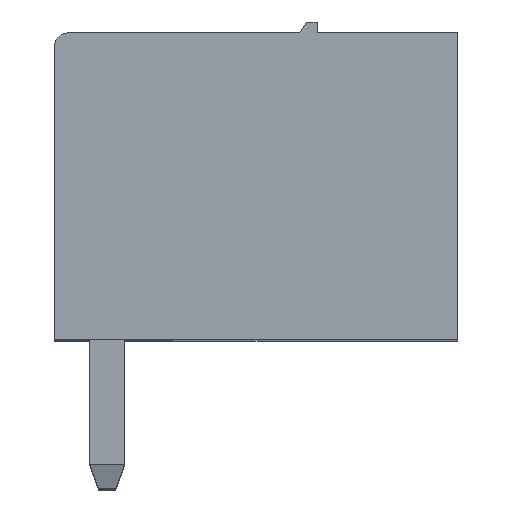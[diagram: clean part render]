
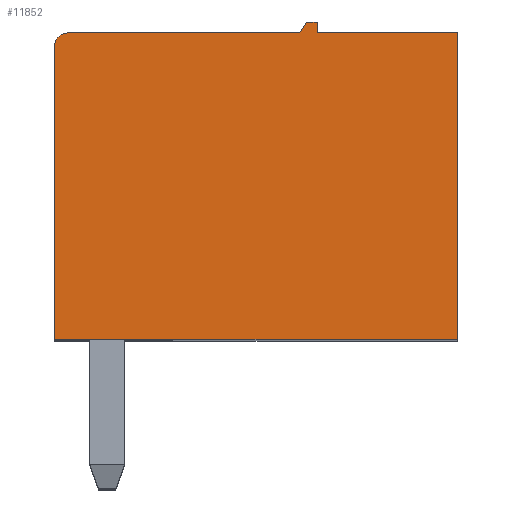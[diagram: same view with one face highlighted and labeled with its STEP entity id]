
A CAD part, top view. The second image highlights one B-rep face of the part: STEP entity #11852.
In plain terms, the highlighted planar face has unit normal (0, 0, 1).
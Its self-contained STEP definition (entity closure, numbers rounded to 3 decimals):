
#76 = CARTESIAN_POINT ( 'NONE',  ( 0., 0., 0. ) ) ;
#79 = DIRECTION ( 'NONE',  ( 0., -1., 0. ) ) ;
#188 = EDGE_CURVE ( 'NONE', #6863, #3545, #10891, .T. ) ;
#673 = DIRECTION ( 'NONE',  ( 0., 0., -1. ) ) ;
#822 = ORIENTED_EDGE ( 'NONE', *, *, #10134, .F. ) ;
#1363 = CARTESIAN_POINT ( 'NONE',  ( 0., 7., 0. ) ) ;
#1449 = AXIS2_PLACEMENT_3D ( 'NONE', #1363, #8263, #9400 ) ;
#1518 = CARTESIAN_POINT ( 'NONE',  ( -9.2, 6.7, 0. ) ) ;
#1536 = LINE ( 'NONE', #76, #6112 ) ;
#1727 = FACE_OUTER_BOUND ( 'NONE', #12166, .T. ) ;
#2052 = DIRECTION ( 'NONE',  ( 1., 0., 0. ) ) ;
#2100 = LINE ( 'NONE', #7382, #9494 ) ;
#2141 = VECTOR ( 'NONE', #4681, 1000. ) ;
#2308 = DIRECTION ( 'NONE',  ( 1., 0., 0. ) ) ;
#2316 = CARTESIAN_POINT ( 'NONE',  ( 0., 0., 0. ) ) ;
#2688 = ORIENTED_EDGE ( 'NONE', *, *, #188, .T. ) ;
#2756 = DIRECTION ( 'NONE',  ( 1., 0., 0. ) ) ;
#2774 = CARTESIAN_POINT ( 'NONE',  ( -8.9, 7., 0. ) ) ;
#3042 = VERTEX_POINT ( 'NONE', #2774 ) ;
#3091 = CIRCLE ( 'NONE', #10872, 0.3 ) ;
#3289 = VECTOR ( 'NONE', #79, 1000. ) ;
#3349 = VECTOR ( 'NONE', #6896, 1000. ) ;
#3374 = VECTOR ( 'NONE', #2308, 1000. ) ;
#3389 = LINE ( 'NONE', #5922, #9190 ) ;
#3528 = EDGE_CURVE ( 'NONE', #6186, #9215, #5132, .T. ) ;
#3545 = VERTEX_POINT ( 'NONE', #11728 ) ;
#3661 = ORIENTED_EDGE ( 'NONE', *, *, #8714, .F. ) ;
#3668 = CARTESIAN_POINT ( 'NONE',  ( -3.45, 7.25, 0. ) ) ;
#3855 = CARTESIAN_POINT ( 'NONE',  ( -9.2, 0., 0. ) ) ;
#4339 = CARTESIAN_POINT ( 'NONE',  ( -3.45, 7.25, 0. ) ) ;
#4681 = DIRECTION ( 'NONE',  ( 0.514, 0.857, 0. ) ) ;
#4765 = LINE ( 'NONE', #7372, #3374 ) ;
#5063 = DIRECTION ( 'NONE',  ( 0., -1., 0. ) ) ;
#5110 = VERTEX_POINT ( 'NONE', #1518 ) ;
#5132 = LINE ( 'NONE', #3668, #2141 ) ;
#5350 = DIRECTION ( 'NONE',  ( -1., 0., 0. ) ) ;
#5762 = CARTESIAN_POINT ( 'NONE',  ( 0., 7., 0. ) ) ;
#5799 = EDGE_CURVE ( 'NONE', #6186, #3042, #3389, .T. ) ;
#5922 = CARTESIAN_POINT ( 'NONE',  ( 0., 7., 0. ) ) ;
#6063 = CARTESIAN_POINT ( 'NONE',  ( -3.2, 7., 0. ) ) ;
#6096 = CARTESIAN_POINT ( 'NONE',  ( -3.2, 7., 0. ) ) ;
#6112 = VECTOR ( 'NONE', #2052, 1000. ) ;
#6118 = ORIENTED_EDGE ( 'NONE', *, *, #13027, .T. ) ;
#6186 = VERTEX_POINT ( 'NONE', #9752 ) ;
#6708 = EDGE_CURVE ( 'NONE', #9836, #6863, #1536, .T. ) ;
#6863 = VERTEX_POINT ( 'NONE', #2316 ) ;
#6896 = DIRECTION ( 'NONE',  ( 0., 1., 0. ) ) ;
#7103 = VERTEX_POINT ( 'NONE', #6096 ) ;
#7251 = PLANE ( 'NONE',  #1449 ) ;
#7372 = CARTESIAN_POINT ( 'NONE',  ( -3.2, 7.25, 0. ) ) ;
#7382 = CARTESIAN_POINT ( 'NONE',  ( 0., 7., 0. ) ) ;
#7479 = ORIENTED_EDGE ( 'NONE', *, *, #6708, .T. ) ;
#8111 = VERTEX_POINT ( 'NONE', #11777 ) ;
#8263 = DIRECTION ( 'NONE',  ( 0., 0., 1. ) ) ;
#8310 = ORIENTED_EDGE ( 'NONE', *, *, #3528, .F. ) ;
#8328 = ORIENTED_EDGE ( 'NONE', *, *, #5799, .T. ) ;
#8500 = ORIENTED_EDGE ( 'NONE', *, *, #11207, .T. ) ;
#8714 = EDGE_CURVE ( 'NONE', #8111, #7103, #11778, .T. ) ;
#8950 = DIRECTION ( 'NONE',  ( -1., 0., 0. ) ) ;
#9190 = VECTOR ( 'NONE', #8950, 1000. ) ;
#9215 = VERTEX_POINT ( 'NONE', #4339 ) ;
#9317 = LINE ( 'NONE', #12127, #11699 ) ;
#9400 = DIRECTION ( 'NONE',  ( 1., 0., 0. ) ) ;
#9494 = VECTOR ( 'NONE', #5350, 1000. ) ;
#9752 = CARTESIAN_POINT ( 'NONE',  ( -3.6, 7., 0. ) ) ;
#9836 = VERTEX_POINT ( 'NONE', #3855 ) ;
#10134 = EDGE_CURVE ( 'NONE', #5110, #3042, #3091, .T. ) ;
#10793 = EDGE_CURVE ( 'NONE', #9215, #8111, #4765, .T. ) ;
#10872 = AXIS2_PLACEMENT_3D ( 'NONE', #11867, #673, #2756 ) ;
#10891 = LINE ( 'NONE', #5762, #3349 ) ;
#11207 = EDGE_CURVE ( 'NONE', #5110, #9836, #9317, .T. ) ;
#11699 = VECTOR ( 'NONE', #5063, 1000. ) ;
#11728 = CARTESIAN_POINT ( 'NONE',  ( 0., 7., 0. ) ) ;
#11777 = CARTESIAN_POINT ( 'NONE',  ( -3.2, 7.25, 0. ) ) ;
#11778 = LINE ( 'NONE', #6063, #3289 ) ;
#11852 = ADVANCED_FACE ( 'NONE', ( #1727 ), #7251, .T. ) ;
#11867 = CARTESIAN_POINT ( 'NONE',  ( -8.9, 6.7, 0. ) ) ;
#11922 = ORIENTED_EDGE ( 'NONE', *, *, #10793, .F. ) ;
#12127 = CARTESIAN_POINT ( 'NONE',  ( -9.2, 7., 0. ) ) ;
#12166 = EDGE_LOOP ( 'NONE', ( #822, #8500, #7479, #2688, #6118, #3661, #11922, #8310, #8328 ) ) ;
#13027 = EDGE_CURVE ( 'NONE', #3545, #7103, #2100, .T. ) ;
